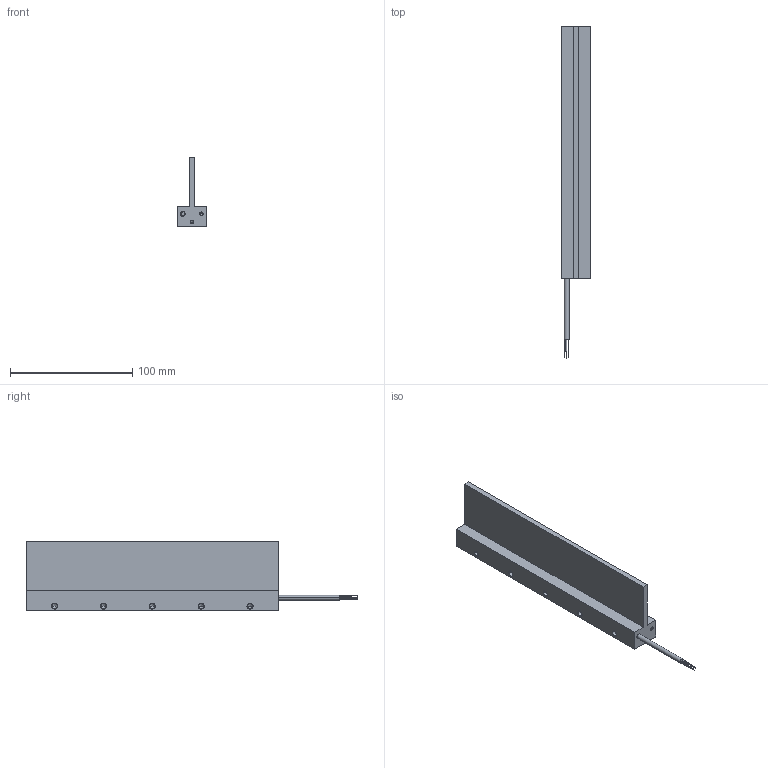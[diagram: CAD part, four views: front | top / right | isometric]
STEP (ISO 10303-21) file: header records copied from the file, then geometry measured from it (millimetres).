
FILE_DESCRIPTION((''),'2;1');
FILE_NAME('IL12-030','2006-04-05T',('saurabh.singhal'),('Kollmorgen'),'PRO/ENGINEER BY PARAMETRIC TECHNOLOGY CORPORATION, 2005310','PRO/ENGINEER BY PARAMETRIC TECHNOLOGY CORPORATION, 2005310','');
FILE_SCHEMA(('CONFIG_CONTROL_DESIGN'));
Length unit declared in the file: millimetre
Products named in the file (1): IL12-030
Bounding box: 24.4 x 271.81 x 57.3 mm (x, y, z)
Volume: 121679.6 mm3; surface area: 38683 mm2
Topology: 1 solids, 21 shells, 189 faces, 462 edges, 288 vertices
Faces by surface type: cylinder 106, plane 43, cone 40
Entity records: 5395 total; most frequent: DIRECTION 1054, CARTESIAN_POINT 900, ORIENTED_EDGE 764, AXIS2_PLACEMENT_3D 442, EDGE_CURVE 422, VERTEX_POINT 288, CIRCLE 252, EDGE_LOOP 242
